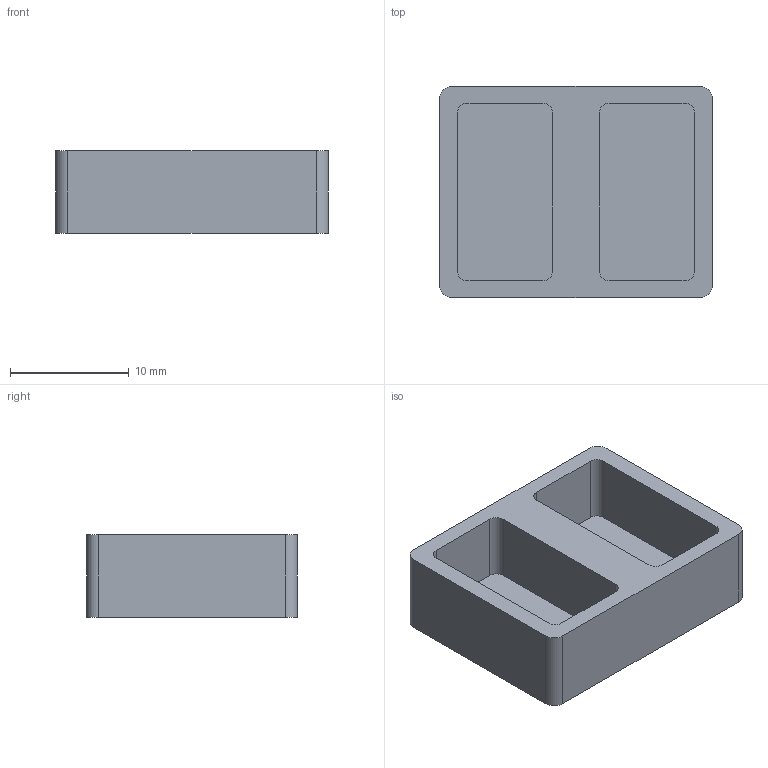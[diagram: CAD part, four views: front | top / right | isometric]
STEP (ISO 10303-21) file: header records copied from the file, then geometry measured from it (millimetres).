
FILE_DESCRIPTION(('Open CASCADE Model'),'2;1');
FILE_NAME('Open CASCADE Shape Model','2026-10-21T17:27:39',('Author'),( 'Open CASCADE'),'Open CASCADE STEP processor 7.9','Open CASCADE 7.9' ,'Unknown');
FILE_SCHEMA(('AUTOMOTIVE_DESIGN { 1 0 10303 214 1 1 1 1 }'));
Length unit declared in the file: millimetre
Products named in the file (1): Open CASCADE STEP translator 7.9 12
Bounding box: 23 x 17.8 x 7 mm (x, y, z)
Volume: 1474.2 mm3; surface area: 1893.9 mm2
Topology: 1 solids, 1 shells, 28 faces, 72 edges, 48 vertices
Faces by surface type: plane 16, cylinder 12
Entity records: 1814 total; most frequent: CARTESIAN_POINT 357, DIRECTION 274, LINE 152, VECTOR 152, ORIENTED_EDGE 144, PCURVE 144, DEFINITIONAL_REPRESENTATION 144, EDGE_CURVE 72
